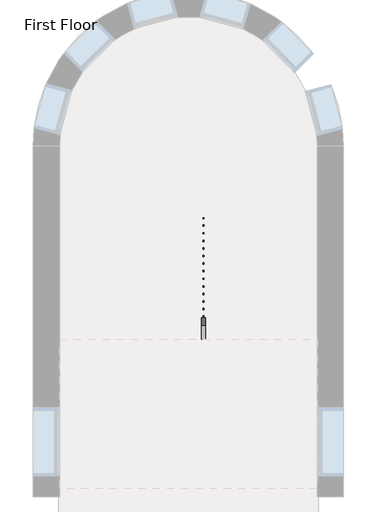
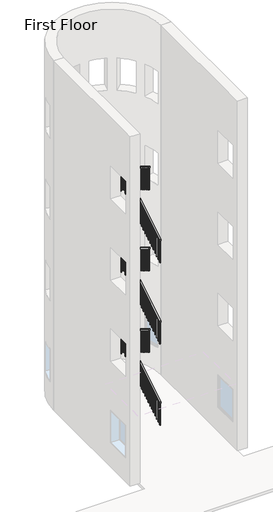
# One storey, part 7 of 8: 1 railing.
"""IFC4 building model written with IfcOpenShell, lengths in millimetres."""

from ifc_helpers import new_model, si_unit, frame, origin, place, context, project, spatial, polyline, outline, extrude, element, save

model = new_model("IFC4")

# Units and contexts
model_context = context("Model", 3, world=origin())
ifc_project = project(units=[si_unit("LENGTHUNIT", "METRE", prefix="MILLI")], contexts=[model_context])

# Site, building, storey
site = spatial("IfcSite", under=ifc_project)
building = spatial("IfcBuilding", under=site)
storey = spatial("IfcBuildingStorey", under=building, Name="First Floor", Elevation=0.0)

# Railing
placement = place(None, origin())
element("IfcRailing", 1, ObjectType="Handrail - Rectangular", at=placement, inside=storey, context=model_context, shape_type="SweptSolid", body=[
    extrude(outline(polyline([(6636.2316867, 7120.3318731), (6636.2316867, 7179.7333333), (8820.6316867, 8503.6121212), (8820.6316867, 8444.2106609), (6636.2316867, 7120.3318731)])), frame((-14884.3714563, 0.0, 0.0), z_axis=(1.0, 0.0, 0.0), x_axis=(0.0, 1.0, 0.0)), (0.0, 0.0, 1.0), 50.8),
    extrude(outline(polyline([(-14833.5714563, 8871.4316867), (-14833.5714563, 8820.6316867), (-15225.6839563, 8820.6316867), (-15225.6839563, 8871.4316867), (-14833.5714563, 8871.4316867)])), frame((0.0, 0.0, 8483.6), z_axis=(0.0, 0.0, 1.0), x_axis=(1.0, 0.0, 0.0)), (0.0, 0.0, 1.0), 50.8),
    extrude(outline(polyline([(8871.4316867, 8703.7333333), (8871.4316867, 8644.3318731), (6636.2316867, 9998.9985397), (6636.2316867, 10058.4), (8871.4316867, 8703.7333333)])), frame((-15276.4839563, 0.0, 0.0), z_axis=(1.0, 0.0, 0.0), x_axis=(0.0, 1.0, 0.0)), (0.0, 0.0, 1.0), 50.8),
    extrude(outline(polyline([(6721.9566867, 9947.0439943), (6721.9566867, 9134.8266332), (6702.9066867, 9146.3720877), (6702.9066867, 9958.5894488), (6721.9566867, 9947.0439943)])), frame((-15260.6089563, 0.0, 0.0), z_axis=(1.0, 0.0, 0.0), x_axis=(0.0, 1.0, 0.0)), (0.0, 0.0, 1.0), 19.05),
    extrude(outline(polyline([(6823.5566867, 9885.4682367), (6823.5566867, 9073.2508756), (6804.5066867, 9084.7963301), (6804.5066867, 9897.0136912), (6823.5566867, 9885.4682367)])), frame((-15260.6089563, 0.0, 0.0), z_axis=(1.0, 0.0, 0.0), x_axis=(0.0, 1.0, 0.0)), (0.0, 0.0, 1.0), 19.05),
    extrude(outline(polyline([(6925.1566867, 9823.8924791), (6925.1566867, 9011.675118), (6906.1066867, 9023.2205726), (6906.1066867, 9835.4379337), (6925.1566867, 9823.8924791)])), frame((-15260.6089563, 0.0, 0.0), z_axis=(1.0, 0.0, 0.0), x_axis=(0.0, 1.0, 0.0)), (0.0, 0.0, 1.0), 19.05),
    extrude(outline(polyline([(7026.7566867, 9762.3167215), (7026.7566867, 8950.0993604), (7007.7066867, 8961.644815), (7007.7066867, 9773.8621761), (7026.7566867, 9762.3167215)])), frame((-15260.6089563, 0.0, 0.0), z_axis=(1.0, 0.0, 0.0), x_axis=(0.0, 1.0, 0.0)), (0.0, 0.0, 1.0), 19.05),
    extrude(outline(polyline([(7128.3566867, 9700.740964), (7128.3566867, 8888.5236029), (7109.3066867, 8900.0690574), (7109.3066867, 9712.2864185), (7128.3566867, 9700.740964)])), frame((-15260.6089563, 0.0, 0.0), z_axis=(1.0, 0.0, 0.0), x_axis=(0.0, 1.0, 0.0)), (0.0, 0.0, 1.0), 19.05),
    extrude(outline(polyline([(7229.9566867, 9639.1652064), (7229.9566867, 8826.9478453), (7210.9066867, 8838.4932998), (7210.9066867, 9650.7106609), (7229.9566867, 9639.1652064)])), frame((-15260.6089563, 0.0, 0.0), z_axis=(1.0, 0.0, 0.0), x_axis=(0.0, 1.0, 0.0)), (0.0, 0.0, 1.0), 19.05),
    extrude(outline(polyline([(7331.5566867, 9577.5894488), (7331.5566867, 8765.3720877), (7312.5066867, 8776.9175422), (7312.5066867, 9589.1349034), (7331.5566867, 9577.5894488)])), frame((-15260.6089563, 0.0, 0.0), z_axis=(1.0, 0.0, 0.0), x_axis=(0.0, 1.0, 0.0)), (0.0, 0.0, 1.0), 19.05),
    extrude(outline(polyline([(7433.1566867, 9516.0136912), (7433.1566867, 8703.7963301), (7414.1066867, 8715.3417847), (7414.1066867, 9527.5591458), (7433.1566867, 9516.0136912)])), frame((-15260.6089563, 0.0, 0.0), z_axis=(1.0, 0.0, 0.0), x_axis=(0.0, 1.0, 0.0)), (0.0, 0.0, 1.0), 19.05),
    extrude(outline(polyline([(7534.7566867, 9454.4379337), (7534.7566867, 8642.2205726), (7515.7066867, 8653.7660271), (7515.7066867, 9465.9833882), (7534.7566867, 9454.4379337)])), frame((-15260.6089563, 0.0, 0.0), z_axis=(1.0, 0.0, 0.0), x_axis=(0.0, 1.0, 0.0)), (0.0, 0.0, 1.0), 19.05),
    extrude(outline(polyline([(7636.3566867, 9392.8621761), (7636.3566867, 8580.644815), (7617.3066867, 8592.1902695), (7617.3066867, 9404.4076306), (7636.3566867, 9392.8621761)])), frame((-15260.6089563, 0.0, 0.0), z_axis=(1.0, 0.0, 0.0), x_axis=(0.0, 1.0, 0.0)), (0.0, 0.0, 1.0), 19.05),
    extrude(outline(polyline([(7737.9566867, 9331.2864185), (7737.9566867, 8519.0690574), (7718.9066867, 8530.6145119), (7718.9066867, 9342.8318731), (7737.9566867, 9331.2864185)])), frame((-15260.6089563, 0.0, 0.0), z_axis=(1.0, 0.0, 0.0), x_axis=(0.0, 1.0, 0.0)), (0.0, 0.0, 1.0), 19.05),
    extrude(outline(polyline([(7839.5566867, 9269.7106609), (7839.5566867, 8457.4932998), (7820.5066867, 8469.0387544), (7820.5066867, 9281.2561155), (7839.5566867, 9269.7106609)])), frame((-15260.6089563, 0.0, 0.0), z_axis=(1.0, 0.0, 0.0), x_axis=(0.0, 1.0, 0.0)), (0.0, 0.0, 1.0), 19.05),
    extrude(outline(polyline([(7941.1566867, 9208.1349034), (7941.1566867, 8395.9175422), (7922.1066867, 8407.4629968), (7922.1066867, 9219.6803579), (7941.1566867, 9208.1349034)])), frame((-15260.6089563, 0.0, 0.0), z_axis=(1.0, 0.0, 0.0), x_axis=(0.0, 1.0, 0.0)), (0.0, 0.0, 1.0), 19.05),
    extrude(outline(polyline([(8042.7566867, 9146.5591458), (8042.7566867, 8334.3417847), (8023.7066867, 8345.8872392), (8023.7066867, 9158.1046003), (8042.7566867, 9146.5591458)])), frame((-15260.6089563, 0.0, 0.0), z_axis=(1.0, 0.0, 0.0), x_axis=(0.0, 1.0, 0.0)), (0.0, 0.0, 1.0), 19.05),
    extrude(outline(polyline([(8144.3566867, 9084.9833882), (8144.3566867, 8272.7660271), (8125.3066867, 8284.3114816), (8125.3066867, 9096.5288428), (8144.3566867, 9084.9833882)])), frame((-15260.6089563, 0.0, 0.0), z_axis=(1.0, 0.0, 0.0), x_axis=(0.0, 1.0, 0.0)), (0.0, 0.0, 1.0), 19.05),
    extrude(outline(polyline([(8245.9566867, 9023.4076306), (8245.9566867, 8211.1902695), (8226.9066867, 8222.7357241), (8226.9066867, 9034.9530852), (8245.9566867, 9023.4076306)])), frame((-15260.6089563, 0.0, 0.0), z_axis=(1.0, 0.0, 0.0), x_axis=(0.0, 1.0, 0.0)), (0.0, 0.0, 1.0), 19.05),
    extrude(outline(polyline([(8347.5566867, 8961.8318731), (8347.5566867, 8149.6145119), (8328.5066867, 8161.1599665), (8328.5066867, 8973.3773276), (8347.5566867, 8961.8318731)])), frame((-15260.6089563, 0.0, 0.0), z_axis=(1.0, 0.0, 0.0), x_axis=(0.0, 1.0, 0.0)), (0.0, 0.0, 1.0), 19.05),
    extrude(outline(polyline([(8449.1566867, 8900.2561155), (8449.1566867, 8088.0387544), (8430.1066867, 8099.5842089), (8430.1066867, 8911.80157), (8449.1566867, 8900.2561155)])), frame((-15260.6089563, 0.0, 0.0), z_axis=(1.0, 0.0, 0.0), x_axis=(0.0, 1.0, 0.0)), (0.0, 0.0, 1.0), 19.05),
    extrude(outline(polyline([(8550.7566867, 8838.6803579), (8550.7566867, 8026.4629968), (8531.7066867, 8038.0084513), (8531.7066867, 8850.2258125), (8550.7566867, 8838.6803579)])), frame((-15260.6089563, 0.0, 0.0), z_axis=(1.0, 0.0, 0.0), x_axis=(0.0, 1.0, 0.0)), (0.0, 0.0, 1.0), 19.05),
    extrude(outline(polyline([(8652.3566867, 8777.1046003), (8652.3566867, 7964.8872392), (8633.3066867, 7976.4326938), (8633.3066867, 8788.6500549), (8652.3566867, 8777.1046003)])), frame((-15260.6089563, 0.0, 0.0), z_axis=(1.0, 0.0, 0.0), x_axis=(0.0, 1.0, 0.0)), (0.0, 0.0, 1.0), 19.05),
    extrude(outline(polyline([(8753.9566867, 8715.5288428), (8753.9566867, 7903.3114816), (8734.9066867, 7914.8569362), (8734.9066867, 8727.0742973), (8753.9566867, 8715.5288428)])), frame((-15260.6089563, 0.0, 0.0), z_axis=(1.0, 0.0, 0.0), x_axis=(0.0, 1.0, 0.0)), (0.0, 0.0, 1.0), 19.05),
    extrude(outline(polyline([(-15154.2464563, 8836.5066867), (-15173.2964563, 8836.5066867), (-15173.2964563, 8855.5566867), (-15154.2464563, 8855.5566867), (-15154.2464563, 8836.5066867)])), frame((0.0, 0.0, 7696.2), z_axis=(0.0, 0.0, 1.0), x_axis=(1.0, 0.0, 0.0)), (0.0, 0.0, 1.0), 787.4),
    extrude(outline(polyline([(-15052.6464563, 8836.5066867), (-15071.6964563, 8836.5066867), (-15071.6964563, 8855.5566867), (-15052.6464563, 8855.5566867), (-15052.6464563, 8836.5066867)])), frame((0.0, 0.0, 7696.2), z_axis=(0.0, 0.0, 1.0), x_axis=(1.0, 0.0, 0.0)), (0.0, 0.0, 1.0), 787.4),
    extrude(outline(polyline([(-14951.0464563, 8836.5066867), (-14970.0964563, 8836.5066867), (-14970.0964563, 8855.5566867), (-14951.0464563, 8855.5566867), (-14951.0464563, 8836.5066867)])), frame((0.0, 0.0, 7696.2), z_axis=(0.0, 0.0, 1.0), x_axis=(1.0, 0.0, 0.0)), (0.0, 0.0, 1.0), 787.4),
    extrude(outline(polyline([(8779.3566867, 8419.1955094), (8779.3566867, 7606.9781483), (8760.3066867, 7595.4326938), (8760.3066867, 8407.6500549), (8779.3566867, 8419.1955094)])), frame((-14868.4964563, 0.0, 0.0), z_axis=(1.0, 0.0, 0.0), x_axis=(0.0, 1.0, 0.0)), (0.0, 0.0, 1.0), 19.05),
    extrude(outline(polyline([(8677.7566867, 8357.6197519), (8677.7566867, 7545.4023907), (8658.7066867, 7533.8569362), (8658.7066867, 8346.0742973), (8677.7566867, 8357.6197519)])), frame((-14868.4964563, 0.0, 0.0), z_axis=(1.0, 0.0, 0.0), x_axis=(0.0, 1.0, 0.0)), (0.0, 0.0, 1.0), 19.05),
    extrude(outline(polyline([(8576.1566867, 8296.0439943), (8576.1566867, 7483.8266332), (8557.1066867, 7472.2811786), (8557.1066867, 8284.4985397), (8576.1566867, 8296.0439943)])), frame((-14868.4964563, 0.0, 0.0), z_axis=(1.0, 0.0, 0.0), x_axis=(0.0, 1.0, 0.0)), (0.0, 0.0, 1.0), 19.05),
    extrude(outline(polyline([(8474.5566867, 8234.4682367), (8474.5566867, 7422.2508756), (8455.5066867, 7410.705421), (8455.5066867, 8222.9227822), (8474.5566867, 8234.4682367)])), frame((-14868.4964563, 0.0, 0.0), z_axis=(1.0, 0.0, 0.0), x_axis=(0.0, 1.0, 0.0)), (0.0, 0.0, 1.0), 19.05),
    extrude(outline(polyline([(8372.9566867, 8172.8924791), (8372.9566867, 7360.675118), (8353.9066867, 7349.1296635), (8353.9066867, 8161.3470246), (8372.9566867, 8172.8924791)])), frame((-14868.4964563, 0.0, 0.0), z_axis=(1.0, 0.0, 0.0), x_axis=(0.0, 1.0, 0.0)), (0.0, 0.0, 1.0), 19.05),
    extrude(outline(polyline([(8271.3566867, 8111.3167215), (8271.3566867, 7299.0993604), (8252.3066867, 7287.5539059), (8252.3066867, 8099.771267), (8271.3566867, 8111.3167215)])), frame((-14868.4964563, 0.0, 0.0), z_axis=(1.0, 0.0, 0.0), x_axis=(0.0, 1.0, 0.0)), (0.0, 0.0, 1.0), 19.05),
    extrude(outline(polyline([(8169.7566867, 8049.740964), (8169.7566867, 7237.5236029), (8150.7066867, 7225.9781483), (8150.7066867, 8038.1955094), (8169.7566867, 8049.740964)])), frame((-14868.4964563, 0.0, 0.0), z_axis=(1.0, 0.0, 0.0), x_axis=(0.0, 1.0, 0.0)), (0.0, 0.0, 1.0), 19.05),
    extrude(outline(polyline([(8068.1566867, 7988.1652064), (8068.1566867, 7175.9478453), (8049.1066867, 7164.4023907), (8049.1066867, 7976.6197519), (8068.1566867, 7988.1652064)])), frame((-14868.4964563, 0.0, 0.0), z_axis=(1.0, 0.0, 0.0), x_axis=(0.0, 1.0, 0.0)), (0.0, 0.0, 1.0), 19.05),
    extrude(outline(polyline([(7966.5566867, 7926.5894488), (7966.5566867, 7114.3720877), (7947.5066867, 7102.8266332), (7947.5066867, 7915.0439943), (7966.5566867, 7926.5894488)])), frame((-14868.4964563, 0.0, 0.0), z_axis=(1.0, 0.0, 0.0), x_axis=(0.0, 1.0, 0.0)), (0.0, 0.0, 1.0), 19.05),
    extrude(outline(polyline([(7864.9566867, 7865.0136912), (7864.9566867, 7052.7963301), (7845.9066867, 7041.2508756), (7845.9066867, 7853.4682367), (7864.9566867, 7865.0136912)])), frame((-14868.4964563, 0.0, 0.0), z_axis=(1.0, 0.0, 0.0), x_axis=(0.0, 1.0, 0.0)), (0.0, 0.0, 1.0), 19.05),
    extrude(outline(polyline([(7763.3566867, 7803.4379337), (7763.3566867, 6991.2205726), (7744.3066867, 6979.675118), (7744.3066867, 7791.8924791), (7763.3566867, 7803.4379337)])), frame((-14868.4964563, 0.0, 0.0), z_axis=(1.0, 0.0, 0.0), x_axis=(0.0, 1.0, 0.0)), (0.0, 0.0, 1.0), 19.05),
    extrude(outline(polyline([(7661.7566867, 7741.8621761), (7661.7566867, 6929.644815), (7642.7066867, 6918.0993604), (7642.7066867, 7730.3167215), (7661.7566867, 7741.8621761)])), frame((-14868.4964563, 0.0, 0.0), z_axis=(1.0, 0.0, 0.0), x_axis=(0.0, 1.0, 0.0)), (0.0, 0.0, 1.0), 19.05),
    extrude(outline(polyline([(7560.1566867, 7680.2864185), (7560.1566867, 6868.0690574), (7541.1066867, 6856.5236029), (7541.1066867, 7668.740964), (7560.1566867, 7680.2864185)])), frame((-14868.4964563, 0.0, 0.0), z_axis=(1.0, 0.0, 0.0), x_axis=(0.0, 1.0, 0.0)), (0.0, 0.0, 1.0), 19.05),
    extrude(outline(polyline([(7458.5566867, 7618.7106609), (7458.5566867, 6806.4932998), (7439.5066867, 6794.9478453), (7439.5066867, 7607.1652064), (7458.5566867, 7618.7106609)])), frame((-14868.4964563, 0.0, 0.0), z_axis=(1.0, 0.0, 0.0), x_axis=(0.0, 1.0, 0.0)), (0.0, 0.0, 1.0), 19.05),
    extrude(outline(polyline([(7356.9566867, 7557.1349034), (7356.9566867, 6744.9175422), (7337.9066867, 6733.3720877), (7337.9066867, 7545.5894488), (7356.9566867, 7557.1349034)])), frame((-14868.4964563, 0.0, 0.0), z_axis=(1.0, 0.0, 0.0), x_axis=(0.0, 1.0, 0.0)), (0.0, 0.0, 1.0), 19.05),
    extrude(outline(polyline([(7255.3566867, 7495.5591458), (7255.3566867, 6683.3417847), (7236.3066867, 6671.7963301), (7236.3066867, 7484.0136912), (7255.3566867, 7495.5591458)])), frame((-14868.4964563, 0.0, 0.0), z_axis=(1.0, 0.0, 0.0), x_axis=(0.0, 1.0, 0.0)), (0.0, 0.0, 1.0), 19.05),
    extrude(outline(polyline([(7153.7566867, 7433.9833882), (7153.7566867, 6621.7660271), (7134.7066867, 6610.2205726), (7134.7066867, 7422.4379337), (7153.7566867, 7433.9833882)])), frame((-14868.4964563, 0.0, 0.0), z_axis=(1.0, 0.0, 0.0), x_axis=(0.0, 1.0, 0.0)), (0.0, 0.0, 1.0), 19.05),
    extrude(outline(polyline([(7052.1566867, 7372.4076306), (7052.1566867, 6560.1902695), (7033.1066867, 6548.644815), (7033.1066867, 7360.8621761), (7052.1566867, 7372.4076306)])), frame((-14868.4964563, 0.0, 0.0), z_axis=(1.0, 0.0, 0.0), x_axis=(0.0, 1.0, 0.0)), (0.0, 0.0, 1.0), 19.05),
    extrude(outline(polyline([(6950.5566867, 7310.8318731), (6950.5566867, 6498.6145119), (6931.5066867, 6487.0690574), (6931.5066867, 7299.2864185), (6950.5566867, 7310.8318731)])), frame((-14868.4964563, 0.0, 0.0), z_axis=(1.0, 0.0, 0.0), x_axis=(0.0, 1.0, 0.0)), (0.0, 0.0, 1.0), 19.05),
    extrude(outline(polyline([(6848.9566867, 7249.2561155), (6848.9566867, 6437.0387544), (6829.9066867, 6425.4932998), (6829.9066867, 7237.7106609), (6848.9566867, 7249.2561155)])), frame((-14868.4964563, 0.0, 0.0), z_axis=(1.0, 0.0, 0.0), x_axis=(0.0, 1.0, 0.0)), (0.0, 0.0, 1.0), 19.05),
    extrude(outline(polyline([(6747.3566867, 7187.6803579), (6747.3566867, 6375.4629968), (6728.3066867, 6363.9175422), (6728.3066867, 7176.1349034), (6747.3566867, 7187.6803579)])), frame((-14868.4964563, 0.0, 0.0), z_axis=(1.0, 0.0, 0.0), x_axis=(0.0, 1.0, 0.0)), (0.0, 0.0, 1.0), 19.05),
    extrude(outline(polyline([(8855.5566867, 8653.9530852), (8855.5566867, 7841.7357241), (8836.5066867, 7853.2811786), (8836.5066867, 8665.4985397), (8855.5566867, 8653.9530852)])), frame((-15260.6089563, 0.0, 0.0), z_axis=(1.0, 0.0, 0.0), x_axis=(0.0, 1.0, 0.0)), (0.0, 0.0, 1.0), 19.05),
    extrude(outline(polyline([(-14849.4464563, 8836.5066867), (-14868.4964563, 8836.5066867), (-14868.4964563, 8855.5566867), (-14849.4464563, 8855.5566867), (-14849.4464563, 8836.5066867)])), frame((0.0, 0.0, 7696.2), z_axis=(0.0, 0.0, 1.0), x_axis=(1.0, 0.0, 0.0)), (0.0, 0.0, 1.0), 787.4),
    extrude(outline(polyline([(6655.2816867, 9987.4530852), (6655.2816867, 9175.2357241), (6636.2316867, 9186.7811786), (6636.2316867, 9998.9985397), (6655.2816867, 9987.4530852)])), frame((-15260.6089563, 0.0, 0.0), z_axis=(1.0, 0.0, 0.0), x_axis=(0.0, 1.0, 0.0)), (0.0, 0.0, 1.0), 19.05),
    extrude(outline(polyline([(6655.2816867, 7131.8773276), (6655.2816867, 6319.6599665), (6636.2316867, 6308.1145119), (6636.2316867, 7120.3318731), (6655.2816867, 7131.8773276)])), frame((-14868.4964563, 0.0, 0.0), z_axis=(1.0, 0.0, 0.0), x_axis=(0.0, 1.0, 0.0)), (0.0, 0.0, 1.0), 19.05),
    extrude(outline(polyline([(6636.2316867, 4072.3318731), (6636.2316867, 4131.7333333), (8820.6316867, 5455.6121212), (8820.6316867, 5396.210661), (6636.2316867, 4072.3318731)])), frame((-14884.3714563, 0.0, 0.0), z_axis=(1.0, 0.0, 0.0), x_axis=(0.0, 1.0, 0.0)), (0.0, 0.0, 1.0), 50.8),
    extrude(outline(polyline([(-14833.5714563, 8871.4316867), (-14833.5714563, 8820.6316867), (-15225.6839563, 8820.6316867), (-15225.6839563, 8871.4316867), (-14833.5714563, 8871.4316867)])), frame((0.0, 0.0, 5435.6), z_axis=(0.0, 0.0, 1.0), x_axis=(1.0, 0.0, 0.0)), (0.0, 0.0, 1.0), 50.8),
    extrude(outline(polyline([(8871.4316867, 5655.7333333), (8871.4316867, 5596.3318731), (6636.2316867, 6950.9985397), (6636.2316867, 7010.4), (8871.4316867, 5655.7333333)])), frame((-15276.4839563, 0.0, 0.0), z_axis=(1.0, 0.0, 0.0), x_axis=(0.0, 1.0, 0.0)), (0.0, 0.0, 1.0), 50.8),
    extrude(outline(polyline([(6721.9566867, 6899.0439943), (6721.9566867, 6086.8266332), (6702.9066867, 6098.3720877), (6702.9066867, 6910.5894488), (6721.9566867, 6899.0439943)])), frame((-15260.6089563, 0.0, 0.0), z_axis=(1.0, 0.0, 0.0), x_axis=(0.0, 1.0, 0.0)), (0.0, 0.0, 1.0), 19.05),
    extrude(outline(polyline([(6823.5566867, 6837.4682367), (6823.5566867, 6025.2508756), (6804.5066867, 6036.7963301), (6804.5066867, 6849.0136913), (6823.5566867, 6837.4682367)])), frame((-15260.6089563, 0.0, 0.0), z_axis=(1.0, 0.0, 0.0), x_axis=(0.0, 1.0, 0.0)), (0.0, 0.0, 1.0), 19.05),
    extrude(outline(polyline([(6925.1566867, 6775.8924791), (6925.1566867, 5963.675118), (6906.1066867, 5975.2205726), (6906.1066867, 6787.4379337), (6925.1566867, 6775.8924791)])), frame((-15260.6089563, 0.0, 0.0), z_axis=(1.0, 0.0, 0.0), x_axis=(0.0, 1.0, 0.0)), (0.0, 0.0, 1.0), 19.05),
    extrude(outline(polyline([(7026.7566867, 6714.3167216), (7026.7566867, 5902.0993604), (7007.7066867, 5913.644815), (7007.7066867, 6725.8621761), (7026.7566867, 6714.3167216)])), frame((-15260.6089563, 0.0, 0.0), z_axis=(1.0, 0.0, 0.0), x_axis=(0.0, 1.0, 0.0)), (0.0, 0.0, 1.0), 19.05),
    extrude(outline(polyline([(7128.3566867, 6652.740964), (7128.3566867, 5840.5236029), (7109.3066867, 5852.0690574), (7109.3066867, 6664.2864185), (7128.3566867, 6652.740964)])), frame((-15260.6089563, 0.0, 0.0), z_axis=(1.0, 0.0, 0.0), x_axis=(0.0, 1.0, 0.0)), (0.0, 0.0, 1.0), 19.05),
    extrude(outline(polyline([(7229.9566867, 6591.1652064), (7229.9566867, 5778.9478453), (7210.9066867, 5790.4932998), (7210.9066867, 6602.7106609), (7229.9566867, 6591.1652064)])), frame((-15260.6089563, 0.0, 0.0), z_axis=(1.0, 0.0, 0.0), x_axis=(0.0, 1.0, 0.0)), (0.0, 0.0, 1.0), 19.05),
    extrude(outline(polyline([(7331.5566867, 6529.5894488), (7331.5566867, 5717.3720877), (7312.5066867, 5728.9175423), (7312.5066867, 6541.1349034), (7331.5566867, 6529.5894488)])), frame((-15260.6089563, 0.0, 0.0), z_axis=(1.0, 0.0, 0.0), x_axis=(0.0, 1.0, 0.0)), (0.0, 0.0, 1.0), 19.05),
    extrude(outline(polyline([(7433.1566867, 6468.0136913), (7433.1566867, 5655.7963301), (7414.1066867, 5667.3417847), (7414.1066867, 6479.5591458), (7433.1566867, 6468.0136913)])), frame((-15260.6089563, 0.0, 0.0), z_axis=(1.0, 0.0, 0.0), x_axis=(0.0, 1.0, 0.0)), (0.0, 0.0, 1.0), 19.05),
    extrude(outline(polyline([(7534.7566867, 6406.4379337), (7534.7566867, 5594.2205726), (7515.7066867, 5605.7660271), (7515.7066867, 6417.9833882), (7534.7566867, 6406.4379337)])), frame((-15260.6089563, 0.0, 0.0), z_axis=(1.0, 0.0, 0.0), x_axis=(0.0, 1.0, 0.0)), (0.0, 0.0, 1.0), 19.05),
    extrude(outline(polyline([(7636.3566867, 6344.8621761), (7636.3566867, 5532.644815), (7617.3066867, 5544.1902695), (7617.3066867, 6356.4076306), (7636.3566867, 6344.8621761)])), frame((-15260.6089563, 0.0, 0.0), z_axis=(1.0, 0.0, 0.0), x_axis=(0.0, 1.0, 0.0)), (0.0, 0.0, 1.0), 19.05),
    extrude(outline(polyline([(7737.9566867, 6283.2864185), (7737.9566867, 5471.0690574), (7718.9066867, 5482.614512), (7718.9066867, 6294.8318731), (7737.9566867, 6283.2864185)])), frame((-15260.6089563, 0.0, 0.0), z_axis=(1.0, 0.0, 0.0), x_axis=(0.0, 1.0, 0.0)), (0.0, 0.0, 1.0), 19.05),
    extrude(outline(polyline([(7839.5566867, 6221.7106609), (7839.5566867, 5409.4932998), (7820.5066867, 5421.0387544), (7820.5066867, 6233.2561155), (7839.5566867, 6221.7106609)])), frame((-15260.6089563, 0.0, 0.0), z_axis=(1.0, 0.0, 0.0), x_axis=(0.0, 1.0, 0.0)), (0.0, 0.0, 1.0), 19.05),
    extrude(outline(polyline([(7941.1566867, 6160.1349034), (7941.1566867, 5347.9175423), (7922.1066867, 5359.4629968), (7922.1066867, 6171.6803579), (7941.1566867, 6160.1349034)])), frame((-15260.6089563, 0.0, 0.0), z_axis=(1.0, 0.0, 0.0), x_axis=(0.0, 1.0, 0.0)), (0.0, 0.0, 1.0), 19.05),
    extrude(outline(polyline([(8042.7566867, 6098.5591458), (8042.7566867, 5286.3417847), (8023.7066867, 5297.8872392), (8023.7066867, 6110.1046003), (8042.7566867, 6098.5591458)])), frame((-15260.6089563, 0.0, 0.0), z_axis=(1.0, 0.0, 0.0), x_axis=(0.0, 1.0, 0.0)), (0.0, 0.0, 1.0), 19.05),
    extrude(outline(polyline([(8144.3566867, 6036.9833882), (8144.3566867, 5224.7660271), (8125.3066867, 5236.3114817), (8125.3066867, 6048.5288428), (8144.3566867, 6036.9833882)])), frame((-15260.6089563, 0.0, 0.0), z_axis=(1.0, 0.0, 0.0), x_axis=(0.0, 1.0, 0.0)), (0.0, 0.0, 1.0), 19.05),
    extrude(outline(polyline([(8245.9566867, 5975.4076306), (8245.9566867, 5163.1902695), (8226.9066867, 5174.7357241), (8226.9066867, 5986.9530852), (8245.9566867, 5975.4076306)])), frame((-15260.6089563, 0.0, 0.0), z_axis=(1.0, 0.0, 0.0), x_axis=(0.0, 1.0, 0.0)), (0.0, 0.0, 1.0), 19.05),
    extrude(outline(polyline([(8347.5566867, 5913.8318731), (8347.5566867, 5101.614512), (8328.5066867, 5113.1599665), (8328.5066867, 5925.3773276), (8347.5566867, 5913.8318731)])), frame((-15260.6089563, 0.0, 0.0), z_axis=(1.0, 0.0, 0.0), x_axis=(0.0, 1.0, 0.0)), (0.0, 0.0, 1.0), 19.05),
    extrude(outline(polyline([(8449.1566867, 5852.2561155), (8449.1566867, 5040.0387544), (8430.1066867, 5051.5842089), (8430.1066867, 5863.80157), (8449.1566867, 5852.2561155)])), frame((-15260.6089563, 0.0, 0.0), z_axis=(1.0, 0.0, 0.0), x_axis=(0.0, 1.0, 0.0)), (0.0, 0.0, 1.0), 19.05),
    extrude(outline(polyline([(8550.7566867, 5790.6803579), (8550.7566867, 4978.4629968), (8531.7066867, 4990.0084513), (8531.7066867, 5802.2258125), (8550.7566867, 5790.6803579)])), frame((-15260.6089563, 0.0, 0.0), z_axis=(1.0, 0.0, 0.0), x_axis=(0.0, 1.0, 0.0)), (0.0, 0.0, 1.0), 19.05),
    extrude(outline(polyline([(8652.3566867, 5729.1046003), (8652.3566867, 4916.8872392), (8633.3066867, 4928.4326938), (8633.3066867, 5740.6500549), (8652.3566867, 5729.1046003)])), frame((-15260.6089563, 0.0, 0.0), z_axis=(1.0, 0.0, 0.0), x_axis=(0.0, 1.0, 0.0)), (0.0, 0.0, 1.0), 19.05),
    extrude(outline(polyline([(8753.9566867, 5667.5288428), (8753.9566867, 4855.3114817), (8734.9066867, 4866.8569362), (8734.9066867, 5679.0742973), (8753.9566867, 5667.5288428)])), frame((-15260.6089563, 0.0, 0.0), z_axis=(1.0, 0.0, 0.0), x_axis=(0.0, 1.0, 0.0)), (0.0, 0.0, 1.0), 19.05),
    extrude(outline(polyline([(-15154.2464563, 8836.5066867), (-15173.2964563, 8836.5066867), (-15173.2964563, 8855.5566867), (-15154.2464563, 8855.5566867), (-15154.2464563, 8836.5066867)])), frame((0.0, 0.0, 4648.2), z_axis=(0.0, 0.0, 1.0), x_axis=(1.0, 0.0, 0.0)), (0.0, 0.0, 1.0), 787.4),
    extrude(outline(polyline([(-15052.6464563, 8836.5066867), (-15071.6964563, 8836.5066867), (-15071.6964563, 8855.5566867), (-15052.6464563, 8855.5566867), (-15052.6464563, 8836.5066867)])), frame((0.0, 0.0, 4648.2), z_axis=(0.0, 0.0, 1.0), x_axis=(1.0, 0.0, 0.0)), (0.0, 0.0, 1.0), 787.4),
    extrude(outline(polyline([(-14951.0464563, 8836.5066867), (-14970.0964563, 8836.5066867), (-14970.0964563, 8855.5566867), (-14951.0464563, 8855.5566867), (-14951.0464563, 8836.5066867)])), frame((0.0, 0.0, 4648.2), z_axis=(0.0, 0.0, 1.0), x_axis=(1.0, 0.0, 0.0)), (0.0, 0.0, 1.0), 787.4),
    extrude(outline(polyline([(8779.3566867, 5371.1955094), (8779.3566867, 4558.9781483), (8760.3066867, 4547.4326938), (8760.3066867, 5359.6500549), (8779.3566867, 5371.1955094)])), frame((-14868.4964563, 0.0, 0.0), z_axis=(1.0, 0.0, 0.0), x_axis=(0.0, 1.0, 0.0)), (0.0, 0.0, 1.0), 19.05),
    extrude(outline(polyline([(8677.7566867, 5309.6197519), (8677.7566867, 4497.4023907), (8658.7066867, 4485.8569362), (8658.7066867, 5298.0742973), (8677.7566867, 5309.6197519)])), frame((-14868.4964563, 0.0, 0.0), z_axis=(1.0, 0.0, 0.0), x_axis=(0.0, 1.0, 0.0)), (0.0, 0.0, 1.0), 19.05),
    extrude(outline(polyline([(8576.1566867, 5248.0439943), (8576.1566867, 4435.8266332), (8557.1066867, 4424.2811786), (8557.1066867, 5236.4985397), (8576.1566867, 5248.0439943)])), frame((-14868.4964563, 0.0, 0.0), z_axis=(1.0, 0.0, 0.0), x_axis=(0.0, 1.0, 0.0)), (0.0, 0.0, 1.0), 19.05),
    extrude(outline(polyline([(8474.5566867, 5186.4682367), (8474.5566867, 4374.2508756), (8455.5066867, 4362.705421), (8455.5066867, 5174.9227822), (8474.5566867, 5186.4682367)])), frame((-14868.4964563, 0.0, 0.0), z_axis=(1.0, 0.0, 0.0), x_axis=(0.0, 1.0, 0.0)), (0.0, 0.0, 1.0), 19.05),
    extrude(outline(polyline([(8372.9566867, 5124.8924791), (8372.9566867, 4312.675118), (8353.9066867, 4301.1296635), (8353.9066867, 5113.3470246), (8372.9566867, 5124.8924791)])), frame((-14868.4964563, 0.0, 0.0), z_axis=(1.0, 0.0, 0.0), x_axis=(0.0, 1.0, 0.0)), (0.0, 0.0, 1.0), 19.05),
    extrude(outline(polyline([(8271.3566867, 5063.3167216), (8271.3566867, 4251.0993604), (8252.3066867, 4239.5539059), (8252.3066867, 5051.771267), (8271.3566867, 5063.3167216)])), frame((-14868.4964563, 0.0, 0.0), z_axis=(1.0, 0.0, 0.0), x_axis=(0.0, 1.0, 0.0)), (0.0, 0.0, 1.0), 19.05),
    extrude(outline(polyline([(8169.7566867, 5001.740964), (8169.7566867, 4189.5236029), (8150.7066867, 4177.9781483), (8150.7066867, 4990.1955094), (8169.7566867, 5001.740964)])), frame((-14868.4964563, 0.0, 0.0), z_axis=(1.0, 0.0, 0.0), x_axis=(0.0, 1.0, 0.0)), (0.0, 0.0, 1.0), 19.05),
    extrude(outline(polyline([(8068.1566867, 4940.1652064), (8068.1566867, 4127.9478453), (8049.1066867, 4116.4023907), (8049.1066867, 4928.6197519), (8068.1566867, 4940.1652064)])), frame((-14868.4964563, 0.0, 0.0), z_axis=(1.0, 0.0, 0.0), x_axis=(0.0, 1.0, 0.0)), (0.0, 0.0, 1.0), 19.05),
    extrude(outline(polyline([(7966.5566867, 4878.5894488), (7966.5566867, 4066.3720877), (7947.5066867, 4054.8266332), (7947.5066867, 4867.0439943), (7966.5566867, 4878.5894488)])), frame((-14868.4964563, 0.0, 0.0), z_axis=(1.0, 0.0, 0.0), x_axis=(0.0, 1.0, 0.0)), (0.0, 0.0, 1.0), 19.05),
    extrude(outline(polyline([(7864.9566867, 4817.0136913), (7864.9566867, 4004.7963301), (7845.9066867, 3993.2508756), (7845.9066867, 4805.4682367), (7864.9566867, 4817.0136913)])), frame((-14868.4964563, 0.0, 0.0), z_axis=(1.0, 0.0, 0.0), x_axis=(0.0, 1.0, 0.0)), (0.0, 0.0, 1.0), 19.05),
    extrude(outline(polyline([(7763.3566867, 4755.4379337), (7763.3566867, 3943.2205726), (7744.3066867, 3931.675118), (7744.3066867, 4743.8924791), (7763.3566867, 4755.4379337)])), frame((-14868.4964563, 0.0, 0.0), z_axis=(1.0, 0.0, 0.0), x_axis=(0.0, 1.0, 0.0)), (0.0, 0.0, 1.0), 19.05),
    extrude(outline(polyline([(7661.7566867, 4693.8621761), (7661.7566867, 3881.644815), (7642.7066867, 3870.0993604), (7642.7066867, 4682.3167216), (7661.7566867, 4693.8621761)])), frame((-14868.4964563, 0.0, 0.0), z_axis=(1.0, 0.0, 0.0), x_axis=(0.0, 1.0, 0.0)), (0.0, 0.0, 1.0), 19.05),
    extrude(outline(polyline([(7560.1566867, 4632.2864185), (7560.1566867, 3820.0690574), (7541.1066867, 3808.5236029), (7541.1066867, 4620.740964), (7560.1566867, 4632.2864185)])), frame((-14868.4964563, 0.0, 0.0), z_axis=(1.0, 0.0, 0.0), x_axis=(0.0, 1.0, 0.0)), (0.0, 0.0, 1.0), 19.05),
    extrude(outline(polyline([(7458.5566867, 4570.710661), (7458.5566867, 3758.4932998), (7439.5066867, 3746.9478453), (7439.5066867, 4559.1652064), (7458.5566867, 4570.710661)])), frame((-14868.4964563, 0.0, 0.0), z_axis=(1.0, 0.0, 0.0), x_axis=(0.0, 1.0, 0.0)), (0.0, 0.0, 1.0), 19.05),
    extrude(outline(polyline([(7356.9566867, 4509.1349034), (7356.9566867, 3696.9175423), (7337.9066867, 3685.3720877), (7337.9066867, 4497.5894488), (7356.9566867, 4509.1349034)])), frame((-14868.4964563, 0.0, 0.0), z_axis=(1.0, 0.0, 0.0), x_axis=(0.0, 1.0, 0.0)), (0.0, 0.0, 1.0), 19.05),
    extrude(outline(polyline([(7255.3566867, 4447.5591458), (7255.3566867, 3635.3417847), (7236.3066867, 3623.7963301), (7236.3066867, 4436.0136913), (7255.3566867, 4447.5591458)])), frame((-14868.4964563, 0.0, 0.0), z_axis=(1.0, 0.0, 0.0), x_axis=(0.0, 1.0, 0.0)), (0.0, 0.0, 1.0), 19.05),
    extrude(outline(polyline([(7153.7566867, 4385.9833882), (7153.7566867, 3573.7660271), (7134.7066867, 3562.2205726), (7134.7066867, 4374.4379337), (7153.7566867, 4385.9833882)])), frame((-14868.4964563, 0.0, 0.0), z_axis=(1.0, 0.0, 0.0), x_axis=(0.0, 1.0, 0.0)), (0.0, 0.0, 1.0), 19.05),
    extrude(outline(polyline([(7052.1566867, 4324.4076306), (7052.1566867, 3512.1902695), (7033.1066867, 3500.644815), (7033.1066867, 4312.8621761), (7052.1566867, 4324.4076306)])), frame((-14868.4964563, 0.0, 0.0), z_axis=(1.0, 0.0, 0.0), x_axis=(0.0, 1.0, 0.0)), (0.0, 0.0, 1.0), 19.05),
    extrude(outline(polyline([(6950.5566867, 4262.8318731), (6950.5566867, 3450.614512), (6931.5066867, 3439.0690574), (6931.5066867, 4251.2864185), (6950.5566867, 4262.8318731)])), frame((-14868.4964563, 0.0, 0.0), z_axis=(1.0, 0.0, 0.0), x_axis=(0.0, 1.0, 0.0)), (0.0, 0.0, 1.0), 19.05),
    extrude(outline(polyline([(6848.9566867, 4201.2561155), (6848.9566867, 3389.0387544), (6829.9066867, 3377.4932998), (6829.9066867, 4189.710661), (6848.9566867, 4201.2561155)])), frame((-14868.4964563, 0.0, 0.0), z_axis=(1.0, 0.0, 0.0), x_axis=(0.0, 1.0, 0.0)), (0.0, 0.0, 1.0), 19.05),
    extrude(outline(polyline([(6747.3566867, 4139.6803579), (6747.3566867, 3327.4629968), (6728.3066867, 3315.9175423), (6728.3066867, 4128.1349034), (6747.3566867, 4139.6803579)])), frame((-14868.4964563, 0.0, 0.0), z_axis=(1.0, 0.0, 0.0), x_axis=(0.0, 1.0, 0.0)), (0.0, 0.0, 1.0), 19.05),
    extrude(outline(polyline([(8855.5566867, 5605.9530852), (8855.5566867, 4793.7357241), (8836.5066867, 4805.2811786), (8836.5066867, 5617.4985397), (8855.5566867, 5605.9530852)])), frame((-15260.6089563, 0.0, 0.0), z_axis=(1.0, 0.0, 0.0), x_axis=(0.0, 1.0, 0.0)), (0.0, 0.0, 1.0), 19.05),
    extrude(outline(polyline([(-14849.4464563, 8836.5066867), (-14868.4964563, 8836.5066867), (-14868.4964563, 8855.5566867), (-14849.4464563, 8855.5566867), (-14849.4464563, 8836.5066867)])), frame((0.0, 0.0, 4648.2), z_axis=(0.0, 0.0, 1.0), x_axis=(1.0, 0.0, 0.0)), (0.0, 0.0, 1.0), 787.4),
    extrude(outline(polyline([(6655.2816867, 6939.4530852), (6655.2816867, 6127.2357241), (6636.2316867, 6138.7811786), (6636.2316867, 6950.9985397), (6655.2816867, 6939.4530852)])), frame((-15260.6089563, 0.0, 0.0), z_axis=(1.0, 0.0, 0.0), x_axis=(0.0, 1.0, 0.0)), (0.0, 0.0, 1.0), 19.05),
    extrude(outline(polyline([(6655.2816867, 4083.8773276), (6655.2816867, 3271.6599665), (6636.2316867, 3260.114512), (6636.2316867, 4072.3318731), (6655.2816867, 4083.8773276)])), frame((-14868.4964563, 0.0, 0.0), z_axis=(1.0, 0.0, 0.0), x_axis=(0.0, 1.0, 0.0)), (0.0, 0.0, 1.0), 19.05),
    extrude(outline(polyline([(6636.2316867, 1024.3318731), (6636.2316867, 1083.7333333), (8820.6316867, 2407.6121212), (8820.6316867, 2348.210661), (6636.2316867, 1024.3318731)])), frame((-14884.3714563, 0.0, 0.0), z_axis=(1.0, 0.0, 0.0), x_axis=(0.0, 1.0, 0.0)), (0.0, 0.0, 1.0), 50.8),
    extrude(outline(polyline([(-14833.5714563, 8871.4316867), (-14833.5714563, 8820.6316867), (-15225.6839563, 8820.6316867), (-15225.6839563, 8871.4316867), (-14833.5714563, 8871.4316867)])), frame((0.0, 0.0, 2387.6), z_axis=(0.0, 0.0, 1.0), x_axis=(1.0, 0.0, 0.0)), (0.0, 0.0, 1.0), 50.8),
    extrude(outline(polyline([(8871.4316867, 2607.7333333), (8871.4316867, 2548.3318731), (6636.2316867, 3902.9985397), (6636.2316867, 3962.4), (8871.4316867, 2607.7333333)])), frame((-15276.4839563, 0.0, 0.0), z_axis=(1.0, 0.0, 0.0), x_axis=(0.0, 1.0, 0.0)), (0.0, 0.0, 1.0), 50.8),
    extrude(outline(polyline([(6721.9566867, 3851.0439943), (6721.9566867, 3038.8266332), (6702.9066867, 3050.3720877), (6702.9066867, 3862.5894488), (6721.9566867, 3851.0439943)])), frame((-15260.6089563, 0.0, 0.0), z_axis=(1.0, 0.0, 0.0), x_axis=(0.0, 1.0, 0.0)), (0.0, 0.0, 1.0), 19.05),
    extrude(outline(polyline([(6823.5566867, 3789.4682367), (6823.5566867, 2977.2508756), (6804.5066867, 2988.7963301), (6804.5066867, 3801.0136913), (6823.5566867, 3789.4682367)])), frame((-15260.6089563, 0.0, 0.0), z_axis=(1.0, 0.0, 0.0), x_axis=(0.0, 1.0, 0.0)), (0.0, 0.0, 1.0), 19.05),
    extrude(outline(polyline([(6925.1566867, 3727.8924791), (6925.1566867, 2915.675118), (6906.1066867, 2927.2205726), (6906.1066867, 3739.4379337), (6925.1566867, 3727.8924791)])), frame((-15260.6089563, 0.0, 0.0), z_axis=(1.0, 0.0, 0.0), x_axis=(0.0, 1.0, 0.0)), (0.0, 0.0, 1.0), 19.05),
    extrude(outline(polyline([(7026.7566867, 3666.3167216), (7026.7566867, 2854.0993604), (7007.7066867, 2865.644815), (7007.7066867, 3677.8621761), (7026.7566867, 3666.3167216)])), frame((-15260.6089563, 0.0, 0.0), z_axis=(1.0, 0.0, 0.0), x_axis=(0.0, 1.0, 0.0)), (0.0, 0.0, 1.0), 19.05),
    extrude(outline(polyline([(7128.3566867, 3604.740964), (7128.3566867, 2792.5236029), (7109.3066867, 2804.0690574), (7109.3066867, 3616.2864185), (7128.3566867, 3604.740964)])), frame((-15260.6089563, 0.0, 0.0), z_axis=(1.0, 0.0, 0.0), x_axis=(0.0, 1.0, 0.0)), (0.0, 0.0, 1.0), 19.05),
    extrude(outline(polyline([(7229.9566867, 3543.1652064), (7229.9566867, 2730.9478453), (7210.9066867, 2742.4932998), (7210.9066867, 3554.710661), (7229.9566867, 3543.1652064)])), frame((-15260.6089563, 0.0, 0.0), z_axis=(1.0, 0.0, 0.0), x_axis=(0.0, 1.0, 0.0)), (0.0, 0.0, 1.0), 19.05),
    extrude(outline(polyline([(7331.5566867, 3481.5894488), (7331.5566867, 2669.3720877), (7312.5066867, 2680.9175423), (7312.5066867, 3493.1349034), (7331.5566867, 3481.5894488)])), frame((-15260.6089563, 0.0, 0.0), z_axis=(1.0, 0.0, 0.0), x_axis=(0.0, 1.0, 0.0)), (0.0, 0.0, 1.0), 19.05),
    extrude(outline(polyline([(7433.1566867, 3420.0136913), (7433.1566867, 2607.7963301), (7414.1066867, 2619.3417847), (7414.1066867, 3431.5591458), (7433.1566867, 3420.0136913)])), frame((-15260.6089563, 0.0, 0.0), z_axis=(1.0, 0.0, 0.0), x_axis=(0.0, 1.0, 0.0)), (0.0, 0.0, 1.0), 19.05),
    extrude(outline(polyline([(7534.7566867, 3358.4379337), (7534.7566867, 2546.2205726), (7515.7066867, 2557.7660271), (7515.7066867, 3369.9833882), (7534.7566867, 3358.4379337)])), frame((-15260.6089563, 0.0, 0.0), z_axis=(1.0, 0.0, 0.0), x_axis=(0.0, 1.0, 0.0)), (0.0, 0.0, 1.0), 19.05),
    extrude(outline(polyline([(7636.3566867, 3296.8621761), (7636.3566867, 2484.644815), (7617.3066867, 2496.1902695), (7617.3066867, 3308.4076307), (7636.3566867, 3296.8621761)])), frame((-15260.6089563, 0.0, 0.0), z_axis=(1.0, 0.0, 0.0), x_axis=(0.0, 1.0, 0.0)), (0.0, 0.0, 1.0), 19.05),
    extrude(outline(polyline([(7737.9566867, 3235.2864185), (7737.9566867, 2423.0690574), (7718.9066867, 2434.614512), (7718.9066867, 3246.8318731), (7737.9566867, 3235.2864185)])), frame((-15260.6089563, 0.0, 0.0), z_axis=(1.0, 0.0, 0.0), x_axis=(0.0, 1.0, 0.0)), (0.0, 0.0, 1.0), 19.05),
    extrude(outline(polyline([(7839.5566867, 3173.710661), (7839.5566867, 2361.4932998), (7820.5066867, 2373.0387544), (7820.5066867, 3185.2561155), (7839.5566867, 3173.710661)])), frame((-15260.6089563, 0.0, 0.0), z_axis=(1.0, 0.0, 0.0), x_axis=(0.0, 1.0, 0.0)), (0.0, 0.0, 1.0), 19.05),
    extrude(outline(polyline([(7941.1566867, 3112.1349034), (7941.1566867, 2299.9175423), (7922.1066867, 2311.4629968), (7922.1066867, 3123.6803579), (7941.1566867, 3112.1349034)])), frame((-15260.6089563, 0.0, 0.0), z_axis=(1.0, 0.0, 0.0), x_axis=(0.0, 1.0, 0.0)), (0.0, 0.0, 1.0), 19.05),
    extrude(outline(polyline([(8042.7566867, 3050.5591458), (8042.7566867, 2238.3417847), (8023.7066867, 2249.8872392), (8023.7066867, 3062.1046004), (8042.7566867, 3050.5591458)])), frame((-15260.6089563, 0.0, 0.0), z_axis=(1.0, 0.0, 0.0), x_axis=(0.0, 1.0, 0.0)), (0.0, 0.0, 1.0), 19.05),
    extrude(outline(polyline([(8144.3566867, 2988.9833882), (8144.3566867, 2176.7660271), (8125.3066867, 2188.3114817), (8125.3066867, 3000.5288428), (8144.3566867, 2988.9833882)])), frame((-15260.6089563, 0.0, 0.0), z_axis=(1.0, 0.0, 0.0), x_axis=(0.0, 1.0, 0.0)), (0.0, 0.0, 1.0), 19.05),
    extrude(outline(polyline([(8245.9566867, 2927.4076307), (8245.9566867, 2115.1902695), (8226.9066867, 2126.7357241), (8226.9066867, 2938.9530852), (8245.9566867, 2927.4076307)])), frame((-15260.6089563, 0.0, 0.0), z_axis=(1.0, 0.0, 0.0), x_axis=(0.0, 1.0, 0.0)), (0.0, 0.0, 1.0), 19.05),
    extrude(outline(polyline([(8347.5566867, 2865.8318731), (8347.5566867, 2053.614512), (8328.5066867, 2065.1599665), (8328.5066867, 2877.3773276), (8347.5566867, 2865.8318731)])), frame((-15260.6089563, 0.0, 0.0), z_axis=(1.0, 0.0, 0.0), x_axis=(0.0, 1.0, 0.0)), (0.0, 0.0, 1.0), 19.05),
    extrude(outline(polyline([(8449.1566867, 2804.2561155), (8449.1566867, 1992.0387544), (8430.1066867, 2003.5842089), (8430.1066867, 2815.80157), (8449.1566867, 2804.2561155)])), frame((-15260.6089563, 0.0, 0.0), z_axis=(1.0, 0.0, 0.0), x_axis=(0.0, 1.0, 0.0)), (0.0, 0.0, 1.0), 19.05),
    extrude(outline(polyline([(8550.7566867, 2742.6803579), (8550.7566867, 1930.4629968), (8531.7066867, 1942.0084514), (8531.7066867, 2754.2258125), (8550.7566867, 2742.6803579)])), frame((-15260.6089563, 0.0, 0.0), z_axis=(1.0, 0.0, 0.0), x_axis=(0.0, 1.0, 0.0)), (0.0, 0.0, 1.0), 19.05),
    extrude(outline(polyline([(8652.3566867, 2681.1046004), (8652.3566867, 1868.8872392), (8633.3066867, 1880.4326938), (8633.3066867, 2692.6500549), (8652.3566867, 2681.1046004)])), frame((-15260.6089563, 0.0, 0.0), z_axis=(1.0, 0.0, 0.0), x_axis=(0.0, 1.0, 0.0)), (0.0, 0.0, 1.0), 19.05),
    extrude(outline(polyline([(8753.9566867, 2619.5288428), (8753.9566867, 1807.3114817), (8734.9066867, 1818.8569362), (8734.9066867, 2631.0742973), (8753.9566867, 2619.5288428)])), frame((-15260.6089563, 0.0, 0.0), z_axis=(1.0, 0.0, 0.0), x_axis=(0.0, 1.0, 0.0)), (0.0, 0.0, 1.0), 19.05),
    extrude(outline(polyline([(-15154.2464563, 8836.5066867), (-15173.2964563, 8836.5066867), (-15173.2964563, 8855.5566867), (-15154.2464563, 8855.5566867), (-15154.2464563, 8836.5066867)])), frame((0.0, 0.0, 1600.2), z_axis=(0.0, 0.0, 1.0), x_axis=(1.0, 0.0, 0.0)), (0.0, 0.0, 1.0), 787.4),
    extrude(outline(polyline([(-15052.6464563, 8836.5066867), (-15071.6964563, 8836.5066867), (-15071.6964563, 8855.5566867), (-15052.6464563, 8855.5566867), (-15052.6464563, 8836.5066867)])), frame((0.0, 0.0, 1600.2), z_axis=(0.0, 0.0, 1.0), x_axis=(1.0, 0.0, 0.0)), (0.0, 0.0, 1.0), 787.4),
    extrude(outline(polyline([(-14951.0464563, 8836.5066867), (-14970.0964563, 8836.5066867), (-14970.0964563, 8855.5566867), (-14951.0464563, 8855.5566867), (-14951.0464563, 8836.5066867)])), frame((0.0, 0.0, 1600.2), z_axis=(0.0, 0.0, 1.0), x_axis=(1.0, 0.0, 0.0)), (0.0, 0.0, 1.0), 787.4),
    extrude(outline(polyline([(8779.3566867, 2323.1955094), (8779.3566867, 1510.9781483), (8760.3066867, 1499.4326938), (8760.3066867, 2311.6500549), (8779.3566867, 2323.1955094)])), frame((-14868.4964563, 0.0, 0.0), z_axis=(1.0, 0.0, 0.0), x_axis=(0.0, 1.0, 0.0)), (0.0, 0.0, 1.0), 19.05),
    extrude(outline(polyline([(8677.7566867, 2261.6197519), (8677.7566867, 1449.4023907), (8658.7066867, 1437.8569362), (8658.7066867, 2250.0742973), (8677.7566867, 2261.6197519)])), frame((-14868.4964563, 0.0, 0.0), z_axis=(1.0, 0.0, 0.0), x_axis=(0.0, 1.0, 0.0)), (0.0, 0.0, 1.0), 19.05),
    extrude(outline(polyline([(8576.1566867, 2200.0439943), (8576.1566867, 1387.8266332), (8557.1066867, 1376.2811786), (8557.1066867, 2188.4985397), (8576.1566867, 2200.0439943)])), frame((-14868.4964563, 0.0, 0.0), z_axis=(1.0, 0.0, 0.0), x_axis=(0.0, 1.0, 0.0)), (0.0, 0.0, 1.0), 19.05),
    extrude(outline(polyline([(8474.5566867, 2138.4682367), (8474.5566867, 1326.2508756), (8455.5066867, 1314.7054211), (8455.5066867, 2126.9227822), (8474.5566867, 2138.4682367)])), frame((-14868.4964563, 0.0, 0.0), z_axis=(1.0, 0.0, 0.0), x_axis=(0.0, 1.0, 0.0)), (0.0, 0.0, 1.0), 19.05),
    extrude(outline(polyline([(8372.9566867, 2076.8924791), (8372.9566867, 1264.675118), (8353.9066867, 1253.1296635), (8353.9066867, 2065.3470246), (8372.9566867, 2076.8924791)])), frame((-14868.4964563, 0.0, 0.0), z_axis=(1.0, 0.0, 0.0), x_axis=(0.0, 1.0, 0.0)), (0.0, 0.0, 1.0), 19.05),
    extrude(outline(polyline([(8271.3566867, 2015.3167216), (8271.3566867, 1203.0993604), (8252.3066867, 1191.5539059), (8252.3066867, 2003.771267), (8271.3566867, 2015.3167216)])), frame((-14868.4964563, 0.0, 0.0), z_axis=(1.0, 0.0, 0.0), x_axis=(0.0, 1.0, 0.0)), (0.0, 0.0, 1.0), 19.05),
    extrude(outline(polyline([(8169.7566867, 1953.740964), (8169.7566867, 1141.5236029), (8150.7066867, 1129.9781483), (8150.7066867, 1942.1955094), (8169.7566867, 1953.740964)])), frame((-14868.4964563, 0.0, 0.0), z_axis=(1.0, 0.0, 0.0), x_axis=(0.0, 1.0, 0.0)), (0.0, 0.0, 1.0), 19.05),
    extrude(outline(polyline([(8068.1566867, 1892.1652064), (8068.1566867, 1079.9478453), (8049.1066867, 1068.4023907), (8049.1066867, 1880.6197519), (8068.1566867, 1892.1652064)])), frame((-14868.4964563, 0.0, 0.0), z_axis=(1.0, 0.0, 0.0), x_axis=(0.0, 1.0, 0.0)), (0.0, 0.0, 1.0), 19.05),
    extrude(outline(polyline([(7966.5566867, 1830.5894488), (7966.5566867, 1018.3720877), (7947.5066867, 1006.8266332), (7947.5066867, 1819.0439943), (7966.5566867, 1830.5894488)])), frame((-14868.4964563, 0.0, 0.0), z_axis=(1.0, 0.0, 0.0), x_axis=(0.0, 1.0, 0.0)), (0.0, 0.0, 1.0), 19.05),
    extrude(outline(polyline([(7864.9566867, 1769.0136913), (7864.9566867, 956.7963301), (7845.9066867, 945.2508756), (7845.9066867, 1757.4682367), (7864.9566867, 1769.0136913)])), frame((-14868.4964563, 0.0, 0.0), z_axis=(1.0, 0.0, 0.0), x_axis=(0.0, 1.0, 0.0)), (0.0, 0.0, 1.0), 19.05),
    extrude(outline(polyline([(7763.3566867, 1707.4379337), (7763.3566867, 895.2205726), (7744.3066867, 883.675118), (7744.3066867, 1695.8924791), (7763.3566867, 1707.4379337)])), frame((-14868.4964563, 0.0, 0.0), z_axis=(1.0, 0.0, 0.0), x_axis=(0.0, 1.0, 0.0)), (0.0, 0.0, 1.0), 19.05),
    extrude(outline(polyline([(7661.7566867, 1645.8621761), (7661.7566867, 833.644815), (7642.7066867, 822.0993604), (7642.7066867, 1634.3167216), (7661.7566867, 1645.8621761)])), frame((-14868.4964563, 0.0, 0.0), z_axis=(1.0, 0.0, 0.0), x_axis=(0.0, 1.0, 0.0)), (0.0, 0.0, 1.0), 19.05),
    extrude(outline(polyline([(7560.1566867, 1584.2864185), (7560.1566867, 772.0690574), (7541.1066867, 760.5236029), (7541.1066867, 1572.740964), (7560.1566867, 1584.2864185)])), frame((-14868.4964563, 0.0, 0.0), z_axis=(1.0, 0.0, 0.0), x_axis=(0.0, 1.0, 0.0)), (0.0, 0.0, 1.0), 19.05),
    extrude(outline(polyline([(7458.5566867, 1522.710661), (7458.5566867, 710.4932998), (7439.5066867, 698.9478453), (7439.5066867, 1511.1652064), (7458.5566867, 1522.710661)])), frame((-14868.4964563, 0.0, 0.0), z_axis=(1.0, 0.0, 0.0), x_axis=(0.0, 1.0, 0.0)), (0.0, 0.0, 1.0), 19.05),
    extrude(outline(polyline([(7356.9566867, 1461.1349034), (7356.9566867, 648.9175423), (7337.9066867, 637.3720877), (7337.9066867, 1449.5894488), (7356.9566867, 1461.1349034)])), frame((-14868.4964563, 0.0, 0.0), z_axis=(1.0, 0.0, 0.0), x_axis=(0.0, 1.0, 0.0)), (0.0, 0.0, 1.0), 19.05),
    extrude(outline(polyline([(7255.3566867, 1399.5591458), (7255.3566867, 587.3417847), (7236.3066867, 575.7963301), (7236.3066867, 1388.0136913), (7255.3566867, 1399.5591458)])), frame((-14868.4964563, 0.0, 0.0), z_axis=(1.0, 0.0, 0.0), x_axis=(0.0, 1.0, 0.0)), (0.0, 0.0, 1.0), 19.05),
    extrude(outline(polyline([(7153.7566867, 1337.9833882), (7153.7566867, 525.7660271), (7134.7066867, 514.2205726), (7134.7066867, 1326.4379337), (7153.7566867, 1337.9833882)])), frame((-14868.4964563, 0.0, 0.0), z_axis=(1.0, 0.0, 0.0), x_axis=(0.0, 1.0, 0.0)), (0.0, 0.0, 1.0), 19.05),
    extrude(outline(polyline([(7052.1566867, 1276.4076307), (7052.1566867, 464.1902695), (7033.1066867, 452.644815), (7033.1066867, 1264.8621761), (7052.1566867, 1276.4076307)])), frame((-14868.4964563, 0.0, 0.0), z_axis=(1.0, 0.0, 0.0), x_axis=(0.0, 1.0, 0.0)), (0.0, 0.0, 1.0), 19.05),
    extrude(outline(polyline([(6950.5566867, 1214.8318731), (6950.5566867, 402.614512), (6931.5066867, 391.0690574), (6931.5066867, 1203.2864185), (6950.5566867, 1214.8318731)])), frame((-14868.4964563, 0.0, 0.0), z_axis=(1.0, 0.0, 0.0), x_axis=(0.0, 1.0, 0.0)), (0.0, 0.0, 1.0), 19.05),
    extrude(outline(polyline([(6848.9566867, 1153.2561155), (6848.9566867, 341.0387544), (6829.9066867, 329.4932998), (6829.9066867, 1141.710661), (6848.9566867, 1153.2561155)])), frame((-14868.4964563, 0.0, 0.0), z_axis=(1.0, 0.0, 0.0), x_axis=(0.0, 1.0, 0.0)), (0.0, 0.0, 1.0), 19.05),
    extrude(outline(polyline([(6747.3566867, 1091.6803579), (6747.3566867, 279.4629968), (6728.3066867, 267.9175423), (6728.3066867, 1080.1349034), (6747.3566867, 1091.6803579)])), frame((-14868.4964563, 0.0, 0.0), z_axis=(1.0, 0.0, 0.0), x_axis=(0.0, 1.0, 0.0)), (0.0, 0.0, 1.0), 19.05),
    extrude(outline(polyline([(8855.5566867, 2557.9530852), (8855.5566867, 1745.7357241), (8836.5066867, 1757.2811786), (8836.5066867, 2569.4985397), (8855.5566867, 2557.9530852)])), frame((-15260.6089563, 0.0, 0.0), z_axis=(1.0, 0.0, 0.0), x_axis=(0.0, 1.0, 0.0)), (0.0, 0.0, 1.0), 19.05),
    extrude(outline(polyline([(-14849.4464563, 8836.5066867), (-14868.4964563, 8836.5066867), (-14868.4964563, 8855.5566867), (-14849.4464563, 8855.5566867), (-14849.4464563, 8836.5066867)])), frame((0.0, 0.0, 1600.2), z_axis=(0.0, 0.0, 1.0), x_axis=(1.0, 0.0, 0.0)), (0.0, 0.0, 1.0), 787.4),
    extrude(outline(polyline([(6655.2816867, 3891.4530852), (6655.2816867, 3079.2357241), (6636.2316867, 3090.7811786), (6636.2316867, 3902.9985397), (6655.2816867, 3891.4530852)])), frame((-15260.6089563, 0.0, 0.0), z_axis=(1.0, 0.0, 0.0), x_axis=(0.0, 1.0, 0.0)), (0.0, 0.0, 1.0), 19.05),
    extrude(outline(polyline([(6655.2816867, 1035.8773276), (6655.2816867, 223.6599665), (6636.2316867, 212.114512), (6636.2316867, 1024.3318731), (6655.2816867, 1035.8773276)])), frame((-14868.4964563, 0.0, 0.0), z_axis=(1.0, 0.0, 0.0), x_axis=(0.0, 1.0, 0.0)), (0.0, 0.0, 1.0), 19.05),
])

save(model, "model.ifc")
